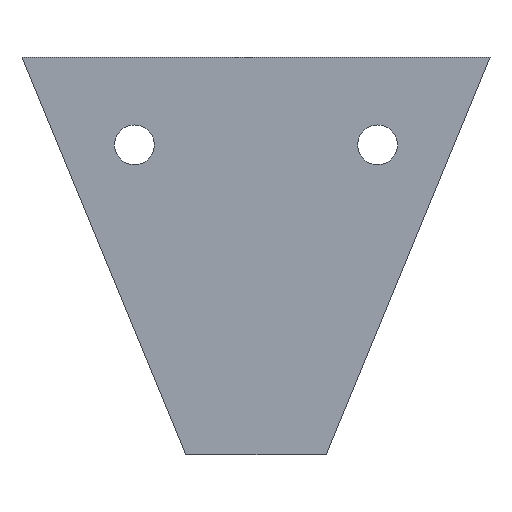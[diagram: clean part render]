
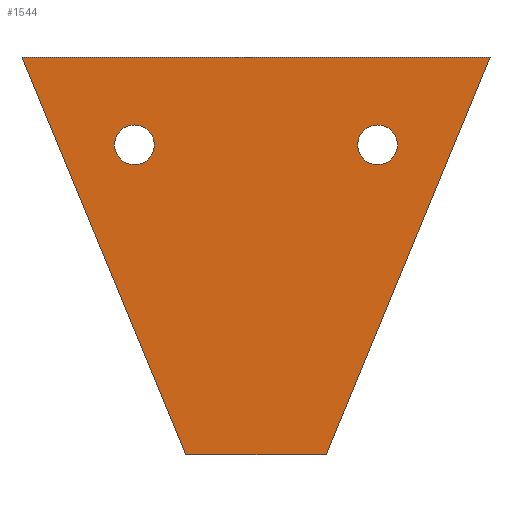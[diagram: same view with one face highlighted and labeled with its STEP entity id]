
A CAD part, front view. The second image highlights one B-rep face of the part: STEP entity #1544.
In plain terms, the highlighted planar face has unit normal (0, -1, 0).
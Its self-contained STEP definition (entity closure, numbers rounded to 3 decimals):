
#15 = EDGE_LOOP ( 'NONE', ( #1391, #1135, #1579, #1651 ) ) ;
#83 = DIRECTION ( 'NONE',  ( 0., -1., 0. ) ) ;
#111 = CARTESIAN_POINT ( 'NONE',  ( 152., -2.5, -37.5 ) ) ;
#142 = CARTESIAN_POINT ( 'NONE',  ( 70., -2.5, -170. ) ) ;
#184 = DIRECTION ( 'NONE',  ( 0., 0., 1. ) ) ;
#188 = CARTESIAN_POINT ( 'NONE',  ( 48., -2.5, -37.5 ) ) ;
#229 = AXIS2_PLACEMENT_3D ( 'NONE', #1395, #1700, #863 ) ;
#241 = CARTESIAN_POINT ( 'NONE',  ( 0., -2.5, 0. ) ) ;
#262 = VECTOR ( 'NONE', #1826, 1000. ) ;
#332 = CARTESIAN_POINT ( 'NONE',  ( 0., -2.5, 0. ) ) ;
#365 = PLANE ( 'NONE',  #1710 ) ;
#382 = VERTEX_POINT ( 'NONE', #1531 ) ;
#383 = EDGE_CURVE ( 'NONE', #569, #1356, #1446, .T. ) ;
#385 = FACE_BOUND ( 'NONE', #1399, .T. ) ;
#432 = LINE ( 'NONE', #1112, #262 ) ;
#481 = CARTESIAN_POINT ( 'NONE',  ( 130., -2.5, -170. ) ) ;
#486 = ORIENTED_EDGE ( 'NONE', *, *, #1702, .T. ) ;
#487 = AXIS2_PLACEMENT_3D ( 'NONE', #111, #1114, #549 ) ;
#549 = DIRECTION ( 'NONE',  ( 0., 0., 1. ) ) ;
#554 = CARTESIAN_POINT ( 'NONE',  ( 0., -2.5, 0. ) ) ;
#569 = VERTEX_POINT ( 'NONE', #1126 ) ;
#631 = CIRCLE ( 'NONE', #1812, 8.5 ) ;
#657 = DIRECTION ( 'NONE',  ( 0., 0., -1. ) ) ;
#663 = CARTESIAN_POINT ( 'NONE',  ( 48., -2.5, -46. ) ) ;
#675 = FACE_OUTER_BOUND ( 'NONE', #15, .T. ) ;
#677 = CARTESIAN_POINT ( 'NONE',  ( 200., -2.5, 0. ) ) ;
#791 = CARTESIAN_POINT ( 'NONE',  ( 48., -2.5, -37.5 ) ) ;
#801 = DIRECTION ( 'NONE',  ( 0., 0., 1. ) ) ;
#812 = CIRCLE ( 'NONE', #229, 8.5 ) ;
#829 = EDGE_LOOP ( 'NONE', ( #1645, #486 ) ) ;
#862 = ORIENTED_EDGE ( 'NONE', *, *, #1573, .T. ) ;
#863 = DIRECTION ( 'NONE',  ( 0., 0., 1. ) ) ;
#894 = DIRECTION ( 'NONE',  ( 0., 1., 0. ) ) ;
#922 = DIRECTION ( 'NONE',  ( -1., 0., 0. ) ) ;
#951 = FACE_BOUND ( 'NONE', #829, .T. ) ;
#972 = CARTESIAN_POINT ( 'NONE',  ( 152., -2.5, -46. ) ) ;
#989 = LINE ( 'NONE', #481, #1057 ) ;
#996 = VERTEX_POINT ( 'NONE', #677 ) ;
#1055 = AXIS2_PLACEMENT_3D ( 'NONE', #188, #894, #184 ) ;
#1057 = VECTOR ( 'NONE', #1726, 1000. ) ;
#1070 = EDGE_CURVE ( 'NONE', #1356, #996, #432, .T. ) ;
#1080 = VECTOR ( 'NONE', #1562, 1000. ) ;
#1083 = DIRECTION ( 'NONE',  ( 0., 1., 0. ) ) ;
#1112 = CARTESIAN_POINT ( 'NONE',  ( 0., -2.5, 0. ) ) ;
#1114 = DIRECTION ( 'NONE',  ( 0., 1., 0. ) ) ;
#1117 = VERTEX_POINT ( 'NONE', #972 ) ;
#1120 = CARTESIAN_POINT ( 'NONE',  ( 48., -2.5, -29. ) ) ;
#1122 = VERTEX_POINT ( 'NONE', #1120 ) ;
#1126 = CARTESIAN_POINT ( 'NONE',  ( 70., -2.5, -170. ) ) ;
#1135 = ORIENTED_EDGE ( 'NONE', *, *, #1475, .F. ) ;
#1258 = CIRCLE ( 'NONE', #1055, 8.5 ) ;
#1281 = LINE ( 'NONE', #142, #1371 ) ;
#1307 = ORIENTED_EDGE ( 'NONE', *, *, #1311, .T. ) ;
#1311 = EDGE_CURVE ( 'NONE', #1122, #1539, #1258, .T. ) ;
#1356 = VERTEX_POINT ( 'NONE', #332 ) ;
#1371 = VECTOR ( 'NONE', #922, 1000. ) ;
#1391 = ORIENTED_EDGE ( 'NONE', *, *, #383, .F. ) ;
#1395 = CARTESIAN_POINT ( 'NONE',  ( 152., -2.5, -37.5 ) ) ;
#1399 = EDGE_LOOP ( 'NONE', ( #1307, #862 ) ) ;
#1411 = EDGE_CURVE ( 'NONE', #996, #382, #989, .T. ) ;
#1446 = LINE ( 'NONE', #554, #1080 ) ;
#1475 = EDGE_CURVE ( 'NONE', #382, #569, #1281, .T. ) ;
#1531 = CARTESIAN_POINT ( 'NONE',  ( 130., -2.5, -170. ) ) ;
#1539 = VERTEX_POINT ( 'NONE', #663 ) ;
#1544 = ADVANCED_FACE ( 'NONE', ( #951, #385, #675 ), #365, .T. ) ;
#1550 = CIRCLE ( 'NONE', #487, 8.5 ) ;
#1562 = DIRECTION ( 'NONE',  ( -0.381, 0., 0.925 ) ) ;
#1573 = EDGE_CURVE ( 'NONE', #1539, #1122, #631, .T. ) ;
#1579 = ORIENTED_EDGE ( 'NONE', *, *, #1411, .F. ) ;
#1645 = ORIENTED_EDGE ( 'NONE', *, *, #1832, .T. ) ;
#1651 = ORIENTED_EDGE ( 'NONE', *, *, #1070, .F. ) ;
#1677 = CARTESIAN_POINT ( 'NONE',  ( 152., -2.5, -29. ) ) ;
#1700 = DIRECTION ( 'NONE',  ( 0., 1., 0. ) ) ;
#1702 = EDGE_CURVE ( 'NONE', #1117, #1768, #1550, .T. ) ;
#1710 = AXIS2_PLACEMENT_3D ( 'NONE', #241, #83, #657 ) ;
#1726 = DIRECTION ( 'NONE',  ( -0.381, 0., -0.925 ) ) ;
#1768 = VERTEX_POINT ( 'NONE', #1677 ) ;
#1812 = AXIS2_PLACEMENT_3D ( 'NONE', #791, #1083, #801 ) ;
#1826 = DIRECTION ( 'NONE',  ( 1., 0., 0. ) ) ;
#1832 = EDGE_CURVE ( 'NONE', #1768, #1117, #812, .T. ) ;
